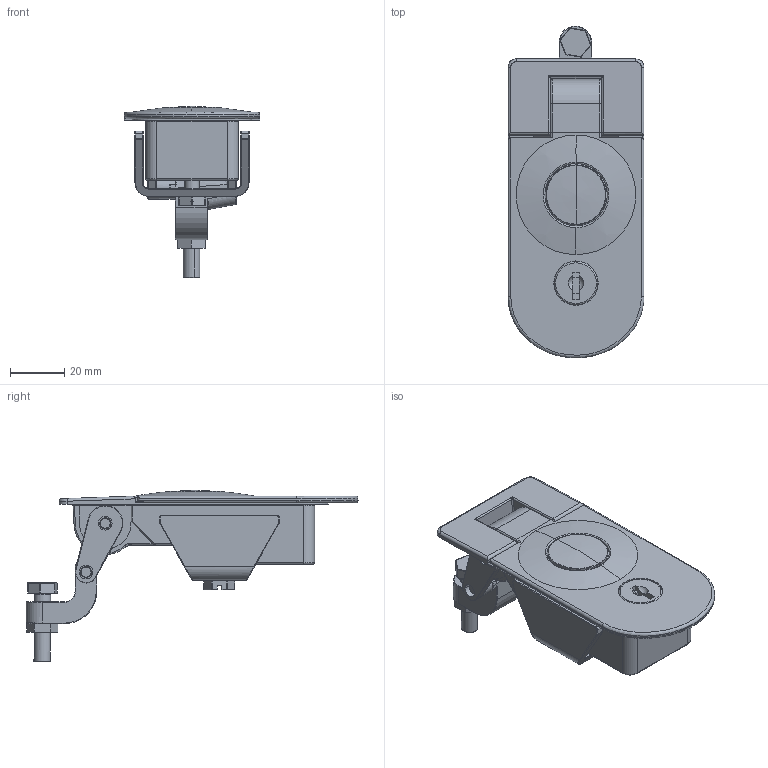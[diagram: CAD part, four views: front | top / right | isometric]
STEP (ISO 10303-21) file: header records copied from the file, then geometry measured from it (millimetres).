
FILE_DESCRIPTION (( 'STEP AP214' ), '1' );
FILE_NAME ('C5L1BP7.STEP', '2016-10-25T22:06:02', ( 'rquinn' ), ( '' ), 'SwSTEP 2.0', 'SolidWorks 2016', '' );
FILE_SCHEMA (( 'AUTOMOTIVE_DESIGN' ));
Length unit declared in the file: millimetre
Products named in the file (15): SW3dPS-C5-21-25_c5_trigger_clf; SW3dPS-C5-21-25_c5_housing_clf; SW3dPS-C5-21-25_C5_LOCKING_HANDLE(locking); SW3dPS-C5-21-25_O-RING; SW3dPS-C5-21-25_C5_ROLL_PIN_CLF; SW3dPS-C5-21-25_C5_TORSION_SPRING_CLF1; C5L1BP7; Part4; SW3dPS-C5-21-25_C5_MOUNTING_BRACKET_1-11MM_CLF; SW3dPS-C5-21-25_c5_crank_clf; SW3dPS-C5-21-25_44; SW3dPS-C5-21-25_c5_m6_nut_clf5; SW3dPS-C5-21-25_c5_m6x25_bolt_clf5; SW3dPS-C5-21-25_C5_LEVER_CLF1; SW3dPS-C5-21-25_C5_LOCKPLUG_CLF
Assembly tree (15 placements, depth 3):
  C5L1BP7
    SW3dPS-C5-21-25_C5_TORSION_SPRING_CLF1
    SW3dPS-C5-21-25_C5_ROLL_PIN_CLF
    SW3dPS-C5-21-25_O-RING  x2
    SW3dPS-C5-21-25_C5_LOCKING_HANDLE(locking)
    SW3dPS-C5-21-25_c5_housing_clf
    SW3dPS-C5-21-25_c5_trigger_clf
    SW3dPS-C5-21-25_C5_LOCKPLUG_CLF
    SW3dPS-C5-21-25_44
      SW3dPS-C5-21-25_C5_LEVER_CLF1
      SW3dPS-C5-21-25_c5_m6x25_bolt_clf5
      SW3dPS-C5-21-25_c5_m6_nut_clf5
    SW3dPS-C5-21-25_c5_crank_clf
    SW3dPS-C5-21-25_C5_MOUNTING_BRACKET_1-11MM_CLF
    Part4
Bounding box: 50 x 122.16 x 63.04 mm (x, y, z)
Volume: 29820.7 mm3; surface area: 52519.1 mm2
Topology: 7 solids, 16 shells, 1092 faces, 2726 edges, 1657 vertices
Faces by surface type: plane 400, cylinder 361, bspline 139, torus 139, sphere 31, cone 22
Entity records: 42598 total; most frequent: CARTESIAN_POINT 17071, ORIENTED_EDGE 5364, DIRECTION 5042, EDGE_CURVE 2684, AXIS2_PLACEMENT_3D 1832, VERTEX_POINT 1653, VECTOR 1378, LINE 1378
